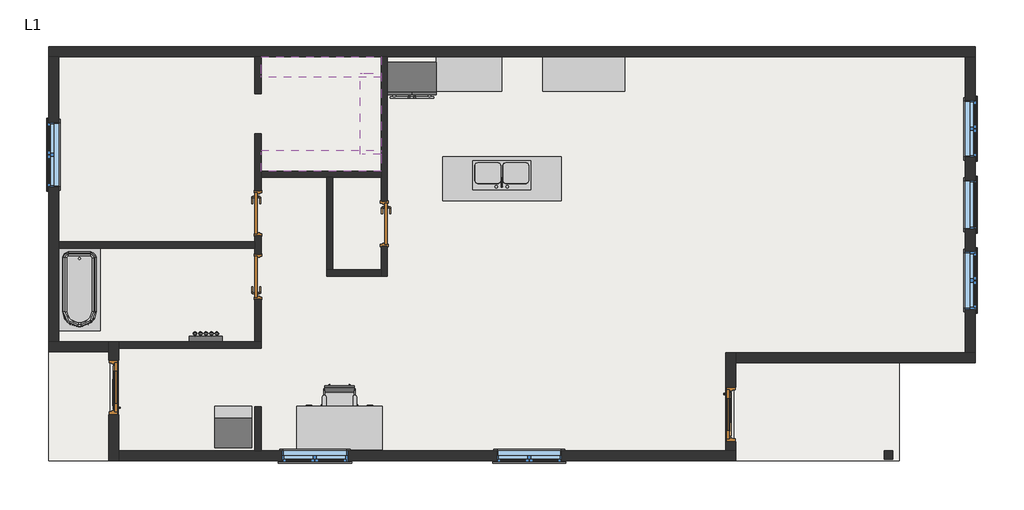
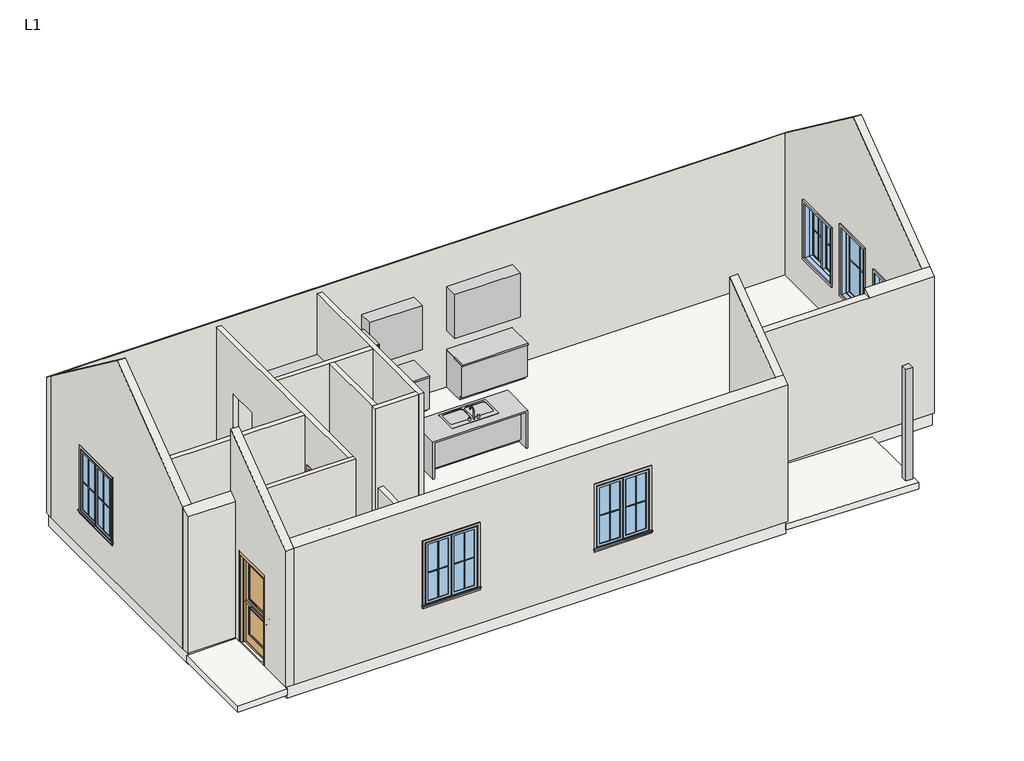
# One storey, incomplete: 28 proxies, 16 walls, 6 windows, 5 doors, 5 furniture elements, 3 slabs, 2 flow terminals, 1 column, 1 light fixture.
"""IFC4 building model written with IfcOpenShell, lengths in millimetres."""

from ifc_helpers import new_model, si_unit, frame, origin, origin_with_axes, place, context, project, spatial, polyline, outline, extrude, faceted_brep, transform, mapped, element, save
from components import proxy_39d06be3, proxy_0dac56ba, m_muntin_pattern_2x2_m_muntin_pattern_2x2_eb2ebf6d, m_muntin_pattern_2x2_m_muntin_pattern_2x2_a591b470, m_muntin_pattern_2x2_m_muntin_pattern_2x2_d4676b39, m_muntin_pattern_2x2_m_muntin_pattern_2x2_dce6eb8c, m_muntin_pattern_2x2_m_muntin_pattern_2x2_65db4d50, m_refrigerator_french_door_900mm_85fdf866, m_trim_window_exterior_flat_with_sill_96d7571b, m_trim_window_exterior_flat_with_sill_a970d7bf, m_trim_window_exterior_flat_with_sill_09d1e46a, m_trim_window_interior_flat_picture_frame_ac477dd0, m_trim_window_interior_flat_picture_frame_5bf35ee4, m_trim_window_interior_flat_picture_frame_313add5a, proxy_5ec56aa7, m_door_exterior_single_two_lite_900_x_2100mm_26a130b0, m_door_passage_single_flush_750_x_2100mm_117db9f4, m_door_passage_single_flush_750_x_2100mm_a396414b, m_sink_kitchen_double_1065_mmx535_mm_private_a90f4076, m_tub_rectangular_3d_m_tub_rectangular_3d_5c80b43e, furniture_692216f6, furniture_e14fe356, furniture_18aa629a, m_chair_task_arms_m_chair_task_arms_bb362225, m_desk_1525_x_762mm_34485ced, standard_89f9745c, m_window_casement_double_1050_x_1350mm_baccf237, m_window_casement_double_1200_x_1500mm_974e59ab, m_window_fixed_900_x_1650mm_c6421b1e

model = new_model("IFC4")

# Units and contexts
model_context = context("Model", 3, world=origin())
ifc_project = project(units=[si_unit("LENGTHUNIT", "METRE", prefix="MILLI")], contexts=[model_context])

# Site, building, storey
site = spatial("IfcSite", under=ifc_project)
building = spatial("IfcBuilding", under=site)
storey = spatial("IfcBuildingStorey", under=building, Name="L1", Elevation=0.0)

# Proxies
placement = place(None, origin())
proxy_shape = proxy_39d06be3(model_context)
element("IfcBuildingElementProxy", 1, Name="Closet Shelf and Pole : 15\" Deep", ObjectType="Closet Shelf and Pole : 15\" Deep", at=placement, inside=storey, context=model_context, shape_type="MappedRepresentation", body=[
    mapped(proxy_shape, transform((-2941.5777761, 3663.8910467, 0.0), x_axis=(1.0, 0.0, 0.0), y_axis=(0.0, 1.0, 0.0), z_axis=(0.0, 0.0, 1.0))),
])
element("IfcBuildingElementProxy", 2, Name="Closet Shelf and Pole : 15\" Deep", ObjectType="Closet Shelf and Pole : 15\" Deep", at=placement, inside=storey, context=model_context, shape_type="MappedRepresentation", body=[
    mapped(proxy_shape, transform((-741.5777761, 1563.8910467, 0.0), x_axis=(-1.0, 0.0, 0.0), y_axis=(0.0, -1.0, 0.0), z_axis=(0.0, 0.0, 1.0))),
])
proxy_2_shape = proxy_0dac56ba(model_context)
element("IfcBuildingElementProxy", 3, Name="Closet Shelf and Pole : 15\" Deep", ObjectType="Closet Shelf and Pole : 15\" Deep", at=placement, inside=storey, context=model_context, shape_type="MappedRepresentation", body=[
    mapped(proxy_2_shape, transform((-741.5777761, 3359.0910467, 0.0), x_axis=(0.0, -1.0, 0.0), y_axis=(1.0, 0.0, 0.0), z_axis=(0.0, 0.0, 1.0))),
])
m_muntin_pattern_2x2_m_muntin_pattern_2x2_shape = m_muntin_pattern_2x2_m_muntin_pattern_2x2_eb2ebf6d(model_context)
element("IfcBuildingElementProxy", 4, Name="M_Muntin Pattern_2x2 : M_Muntin Pattern_2x2", ObjectType="M_Muntin Pattern_2x2 : M_Muntin Pattern_2x2", at=placement, inside=storey, context=model_context, shape_type="MappedRepresentation", body=[
    mapped(m_muntin_pattern_2x2_m_muntin_pattern_2x2_shape, transform((10147.8972239, 2599.8035467, 969.85), x_axis=(0.0, -1.0, 0.0), y_axis=(1.0, 0.0, 0.0), z_axis=(0.0, 0.0, 1.0))),
])
element("IfcBuildingElementProxy", 5, Name="M_Muntin Pattern_2x2 : M_Muntin Pattern_2x2", ObjectType="M_Muntin Pattern_2x2 : M_Muntin Pattern_2x2", at=placement, inside=storey, context=model_context, shape_type="MappedRepresentation", body=[
    mapped(m_muntin_pattern_2x2_m_muntin_pattern_2x2_shape, transform((10147.8972239, -182.1964533, 969.85), x_axis=(0.0, -1.0, 0.0), y_axis=(1.0, 0.0, 0.0), z_axis=(0.0, 0.0, 1.0))),
])
m_muntin_pattern_2x2_m_muntin_pattern_2x2_2_shape = m_muntin_pattern_2x2_m_muntin_pattern_2x2_a591b470(model_context)
element("IfcBuildingElementProxy", 6, Name="M_Muntin Pattern_2x2 : M_Muntin Pattern_2x2", ObjectType="M_Muntin Pattern_2x2 : M_Muntin Pattern_2x2", at=placement, inside=storey, context=model_context, shape_type="MappedRepresentation", body=[
    mapped(m_muntin_pattern_2x2_m_muntin_pattern_2x2_2_shape, transform((10147.8972239, 2077.9785467, 969.85), x_axis=(0.0, 1.0, 0.0), y_axis=(-1.0, 0.0, 0.0), z_axis=(0.0, 0.0, 1.0))),
])
element("IfcBuildingElementProxy", 7, Name="M_Muntin Pattern_2x2 : M_Muntin Pattern_2x2", ObjectType="M_Muntin Pattern_2x2 : M_Muntin Pattern_2x2", at=placement, inside=storey, context=model_context, shape_type="MappedRepresentation", body=[
    mapped(m_muntin_pattern_2x2_m_muntin_pattern_2x2_2_shape, transform((10147.8972239, -704.0214533, 969.85), x_axis=(0.0, 1.0, 0.0), y_axis=(-1.0, 0.0, 0.0), z_axis=(0.0, 0.0, 1.0))),
])
m_muntin_pattern_2x2_m_muntin_pattern_2x2_3_shape = m_muntin_pattern_2x2_m_muntin_pattern_2x2_d4676b39(model_context)
element("IfcBuildingElementProxy", 8, Name="M_Muntin Pattern_2x2 : M_Muntin Pattern_2x2", ObjectType="M_Muntin Pattern_2x2 : M_Muntin Pattern_2x2", at=placement, inside=storey, context=model_context, shape_type="MappedRepresentation", body=[
    mapped(m_muntin_pattern_2x2_m_muntin_pattern_2x2_3_shape, transform((2273.3347239, -3742.5839533, 969.85), x_axis=(-1.0, 0.0, 0.0), y_axis=(0.0, -1.0, 0.0), z_axis=(0.0, 0.0, 1.0))),
])
element("IfcBuildingElementProxy", 9, Name="M_Muntin Pattern_2x2 : M_Muntin Pattern_2x2", ObjectType="M_Muntin Pattern_2x2 : M_Muntin Pattern_2x2", at=placement, inside=storey, context=model_context, shape_type="MappedRepresentation", body=[
    mapped(m_muntin_pattern_2x2_m_muntin_pattern_2x2_3_shape, transform((-1658.6652761, -3742.5839533, 969.85), x_axis=(-1.0, 0.0, 0.0), y_axis=(0.0, -1.0, 0.0), z_axis=(0.0, 0.0, 1.0))),
])
element("IfcBuildingElementProxy", 10, Name="M_Muntin Pattern_2x2 : M_Muntin Pattern_2x2", ObjectType="M_Muntin Pattern_2x2 : M_Muntin Pattern_2x2", at=placement, inside=storey, context=model_context, shape_type="MappedRepresentation", body=[
    mapped(m_muntin_pattern_2x2_m_muntin_pattern_2x2_3_shape, transform((-6830.0527761, 1565.4785467, 969.85), x_axis=(0.0, 1.0, 0.0), y_axis=(-1.0, 0.0, 0.0), z_axis=(0.0, 0.0, 1.0))),
])
m_muntin_pattern_2x2_m_muntin_pattern_2x2_4_shape = m_muntin_pattern_2x2_m_muntin_pattern_2x2_dce6eb8c(model_context)
element("IfcBuildingElementProxy", 11, Name="M_Muntin Pattern_2x2 : M_Muntin Pattern_2x2", ObjectType="M_Muntin Pattern_2x2 : M_Muntin Pattern_2x2", at=placement, inside=storey, context=model_context, shape_type="MappedRepresentation", body=[
    mapped(m_muntin_pattern_2x2_m_muntin_pattern_2x2_4_shape, transform((1676.5097239, -3742.5839533, 969.85), x_axis=(1.0, 0.0, 0.0), y_axis=(0.0, 1.0, 0.0), z_axis=(0.0, 0.0, 1.0))),
])
element("IfcBuildingElementProxy", 12, Name="M_Muntin Pattern_2x2 : M_Muntin Pattern_2x2", ObjectType="M_Muntin Pattern_2x2 : M_Muntin Pattern_2x2", at=placement, inside=storey, context=model_context, shape_type="MappedRepresentation", body=[
    mapped(m_muntin_pattern_2x2_m_muntin_pattern_2x2_4_shape, transform((-2255.4902761, -3742.5839533, 969.85), x_axis=(1.0, 0.0, 0.0), y_axis=(0.0, 1.0, 0.0), z_axis=(0.0, 0.0, 1.0))),
])
element("IfcBuildingElementProxy", 13, Name="M_Muntin Pattern_2x2 : M_Muntin Pattern_2x2", ObjectType="M_Muntin Pattern_2x2 : M_Muntin Pattern_2x2", at=placement, inside=storey, context=model_context, shape_type="MappedRepresentation", body=[
    mapped(m_muntin_pattern_2x2_m_muntin_pattern_2x2_4_shape, transform((-6830.0527761, 2162.3035467, 969.85), x_axis=(0.0, -1.0, 0.0), y_axis=(1.0, 0.0, 0.0), z_axis=(0.0, 0.0, 1.0))),
])
m_muntin_pattern_2x2_m_muntin_pattern_2x2_5_shape = m_muntin_pattern_2x2_m_muntin_pattern_2x2_65db4d50(model_context)
element("IfcBuildingElementProxy", 14, Name="M_Muntin Pattern_2x2 : M_Muntin Pattern_2x2", ObjectType="M_Muntin Pattern_2x2 : M_Muntin Pattern_2x2", at=placement, inside=storey, context=model_context, shape_type="MappedRepresentation", body=[
    mapped(m_muntin_pattern_2x2_m_muntin_pattern_2x2_5_shape, transform((10147.8972239, 947.8910467, 938.1), x_axis=(0.0, 1.0, 0.0), y_axis=(-1.0, 0.0, 0.0), z_axis=(0.0, 0.0, 1.0))),
])
m_refrigerator_french_door_900mm_shape = m_refrigerator_french_door_900mm_85fdf866(model_context)
element("IfcBuildingElementProxy", 15, Name="M_Refrigerator-French_Door : 900mm", ObjectType="M_Refrigerator-French_Door : 900mm", at=placement, inside=storey, context=model_context, shape_type="MappedRepresentation", body=[
    mapped(m_refrigerator_french_door_900mm_shape, transform((-177.5777761, 3663.8910467, 0.0), x_axis=(1.0, 0.0, 0.0), y_axis=(0.0, 1.0, 0.0), z_axis=(0.0, 0.0, 1.0))),
])
m_trim_window_exterior_flat_with_sill_shape = m_trim_window_exterior_flat_with_sill_96d7571b(model_context)
element("IfcBuildingElementProxy", 16, Name="M_Trim-Window-Exterior-Flat : with Sill", ObjectType="M_Trim-Window-Exterior-Flat : with Sill", at=placement, inside=storey, context=model_context, shape_type="MappedRepresentation", body=[
    mapped(m_trim_window_exterior_flat_with_sill_shape, transform((10157.4222239, 2338.8910467, 2250.0), x_axis=(0.0, 1.0, 0.0), y_axis=(0.0, 0.0, 1.0), z_axis=(1.0, 0.0, 0.0))),
])
element("IfcBuildingElementProxy", 17, Name="M_Trim-Window-Exterior-Flat : with Sill", ObjectType="M_Trim-Window-Exterior-Flat : with Sill", at=placement, inside=storey, context=model_context, shape_type="MappedRepresentation", body=[
    mapped(m_trim_window_exterior_flat_with_sill_shape, transform((10157.4222239, -443.1089533, 2250.0), x_axis=(0.0, 1.0, 0.0), y_axis=(0.0, 0.0, 1.0), z_axis=(1.0, 0.0, 0.0))),
])
m_trim_window_exterior_flat_with_sill_2_shape = m_trim_window_exterior_flat_with_sill_a970d7bf(model_context)
element("IfcBuildingElementProxy", 18, Name="M_Trim-Window-Exterior-Flat : with Sill", ObjectType="M_Trim-Window-Exterior-Flat : with Sill", at=placement, inside=storey, context=model_context, shape_type="MappedRepresentation", body=[
    mapped(m_trim_window_exterior_flat_with_sill_2_shape, transform((1974.9222239, -3752.1089533, 2400.0), x_axis=(1.0, 0.0, 0.0), y_axis=(0.0, 0.0, 1.0), z_axis=(0.0, -1.0, 0.0))),
])
element("IfcBuildingElementProxy", 19, Name="M_Trim-Window-Exterior-Flat : with Sill", ObjectType="M_Trim-Window-Exterior-Flat : with Sill", at=placement, inside=storey, context=model_context, shape_type="MappedRepresentation", body=[
    mapped(m_trim_window_exterior_flat_with_sill_2_shape, transform((-1957.0777761, -3752.1089533, 2400.0), x_axis=(1.0, 0.0, 0.0), y_axis=(0.0, 0.0, 1.0), z_axis=(0.0, -1.0, 0.0))),
])
element("IfcBuildingElementProxy", 20, Name="M_Trim-Window-Exterior-Flat : with Sill", ObjectType="M_Trim-Window-Exterior-Flat : with Sill", at=placement, inside=storey, context=model_context, shape_type="MappedRepresentation", body=[
    mapped(m_trim_window_exterior_flat_with_sill_2_shape, transform((-6839.5777761, 1863.8910467, 2400.0), x_axis=(0.0, -1.0, 0.0), y_axis=(0.0, 0.0, 1.0), z_axis=(-1.0, 0.0, 0.0))),
])
m_trim_window_exterior_flat_with_sill_3_shape = m_trim_window_exterior_flat_with_sill_09d1e46a(model_context)
element("IfcBuildingElementProxy", 21, Name="M_Trim-Window-Exterior-Flat : with Sill", ObjectType="M_Trim-Window-Exterior-Flat : with Sill", at=placement, inside=storey, context=model_context, shape_type="MappedRepresentation", body=[
    mapped(m_trim_window_exterior_flat_with_sill_3_shape, transform((10157.4222239, 947.8910467, 2550.0), x_axis=(0.0, 1.0, 0.0), y_axis=(0.0, 0.0, 1.0), z_axis=(1.0, 0.0, 0.0))),
])
m_trim_window_interior_flat_picture_frame_shape = m_trim_window_interior_flat_picture_frame_ac477dd0(model_context)
element("IfcBuildingElementProxy", 22, Name="M_Trim-Window-Interior-Flat : Picture Frame", ObjectType="M_Trim-Window-Interior-Flat : Picture Frame", at=placement, inside=storey, context=model_context, shape_type="MappedRepresentation", body=[
    mapped(m_trim_window_interior_flat_picture_frame_shape, transform((9973.4222239, 2338.8910467, 2250.0), x_axis=(0.0, -1.0, 0.0), y_axis=(0.0, 0.0, 1.0), z_axis=(-1.0, 0.0, 0.0))),
])
element("IfcBuildingElementProxy", 23, Name="M_Trim-Window-Interior-Flat : Picture Frame", ObjectType="M_Trim-Window-Interior-Flat : Picture Frame", at=placement, inside=storey, context=model_context, shape_type="MappedRepresentation", body=[
    mapped(m_trim_window_interior_flat_picture_frame_shape, transform((9973.4222239, -443.1089533, 2250.0), x_axis=(0.0, -1.0, 0.0), y_axis=(0.0, 0.0, 1.0), z_axis=(-1.0, 0.0, 0.0))),
])
m_trim_window_interior_flat_picture_frame_2_shape = m_trim_window_interior_flat_picture_frame_5bf35ee4(model_context)
element("IfcBuildingElementProxy", 24, Name="M_Trim-Window-Interior-Flat : Picture Frame", ObjectType="M_Trim-Window-Interior-Flat : Picture Frame", at=placement, inside=storey, context=model_context, shape_type="MappedRepresentation", body=[
    mapped(m_trim_window_interior_flat_picture_frame_2_shape, transform((1974.9222239, -3568.1089533, 2400.0), x_axis=(-1.0, 0.0, 0.0), y_axis=(0.0, 0.0, 1.0), z_axis=(0.0, 1.0, 0.0))),
])
element("IfcBuildingElementProxy", 25, Name="M_Trim-Window-Interior-Flat : Picture Frame", ObjectType="M_Trim-Window-Interior-Flat : Picture Frame", at=placement, inside=storey, context=model_context, shape_type="MappedRepresentation", body=[
    mapped(m_trim_window_interior_flat_picture_frame_2_shape, transform((-1957.0777761, -3568.1089533, 2400.0), x_axis=(-1.0, 0.0, 0.0), y_axis=(0.0, 0.0, 1.0), z_axis=(0.0, 1.0, 0.0))),
])
element("IfcBuildingElementProxy", 26, Name="M_Trim-Window-Interior-Flat : Picture Frame", ObjectType="M_Trim-Window-Interior-Flat : Picture Frame", at=placement, inside=storey, context=model_context, shape_type="MappedRepresentation", body=[
    mapped(m_trim_window_interior_flat_picture_frame_2_shape, transform((-6655.5777761, 1863.8910467, 2400.0), x_axis=(0.0, 1.0, 0.0), y_axis=(0.0, 0.0, 1.0), z_axis=(1.0, 0.0, 0.0))),
])
m_trim_window_interior_flat_picture_frame_3_shape = m_trim_window_interior_flat_picture_frame_313add5a(model_context)
element("IfcBuildingElementProxy", 27, Name="M_Trim-Window-Interior-Flat : Picture Frame", ObjectType="M_Trim-Window-Interior-Flat : Picture Frame", at=placement, inside=storey, context=model_context, shape_type="MappedRepresentation", body=[
    mapped(m_trim_window_interior_flat_picture_frame_3_shape, transform((9973.4222239, 947.8910467, 2550.0), x_axis=(0.0, -1.0, 0.0), y_axis=(0.0, 0.0, 1.0), z_axis=(-1.0, 0.0, 0.0))),
])
proxy_3_shape = proxy_5ec56aa7(model_context)
element("IfcBuildingElementProxy", 28, Name="Washer-Dryer-Stack : 27\" x 30\"", ObjectType="Washer-Dryer-Stack : 27\" x 30\"", at=placement, inside=storey, context=model_context, shape_type="MappedRepresentation", body=[
    mapped(proxy_3_shape, transform((-3454.1777761, -3127.1089533, 0.0), x_axis=(-1.0, 0.0, 0.0), y_axis=(0.0, -1.0, 0.0), z_axis=(0.0, 0.0, 1.0))),
])

# Column
element("IfcColumn", 29, ObjectType="M_Rectangular Column : 150 x 150mm", at=placement, inside=storey, context=model_context, shape_type="SweptSolid", body=[
    extrude(outline(polyline([(8639.4222239, -3568.1089533), (8639.4222239, -3718.1089533), (8489.4222239, -3718.1089533), (8489.4222239, -3568.1089533), (8639.4222239, -3568.1089533)])), origin_with_axes(), (0.0, 0.0, 1.0), 2700.0),
])

# Doors
m_door_exterior_single_two_lite_900_x_2100mm_shape = m_door_exterior_single_two_lite_900_x_2100mm_26a130b0(model_context)
element("IfcDoor", 30, ObjectType="M_Door-Exterior-Single-Two_Lite : 900 x 2100mm", at=placement, inside=storey, context=model_context, shape_type="MappedRepresentation", body=[
    mapped(m_door_exterior_single_two_lite_900_x_2100mm_shape, transform((-5655.4277761, -2402.1089533, 0.0), x_axis=(0.0, 1.0, 0.0), y_axis=(-1.0, 0.0, 0.0), z_axis=(0.0, 0.0, 1.0))),
])
element("IfcDoor", 31, ObjectType="M_Door-Exterior-Single-Two_Lite : 900 x 2100mm", at=placement, inside=storey, context=model_context, shape_type="MappedRepresentation", body=[
    mapped(m_door_exterior_single_two_lite_900_x_2100mm_shape, transform((5673.2722239, -2899.0589533, 0.0), x_axis=(0.0, -1.0, 0.0), y_axis=(1.0, 0.0, 0.0), z_axis=(0.0, 0.0, 1.0))),
])
m_door_passage_single_flush_750_x_2100mm_shape = m_door_passage_single_flush_750_x_2100mm_117db9f4(model_context)
element("IfcDoor", 32, ObjectType="M_Door-Passage-Single-Flush : 750 x 2100mm", at=placement, inside=storey, context=model_context, shape_type="MappedRepresentation", body=[
    mapped(m_door_passage_single_flush_750_x_2100mm_shape, transform((-2992.2277761, -375.1089533, 0.0), x_axis=(0.0, 1.0, 0.0), y_axis=(-1.0, 0.0, 0.0), z_axis=(0.0, 0.0, 1.0))),
])
element("IfcDoor", 33, ObjectType="M_Door-Passage-Single-Flush : 750 x 2100mm", at=placement, inside=storey, context=model_context, shape_type="MappedRepresentation", body=[
    mapped(m_door_passage_single_flush_750_x_2100mm_shape, transform((-690.9277761, 599.8910467, 0.0), x_axis=(0.0, -1.0, 0.0), y_axis=(1.0, 0.0, 0.0), z_axis=(0.0, 0.0, 1.0))),
])
m_door_passage_single_flush_750_x_2100mm_2_shape = m_door_passage_single_flush_750_x_2100mm_a396414b(model_context)
element("IfcDoor", 34, ObjectType="M_Door-Passage-Single-Flush : 750 x 2100mm", at=placement, inside=storey, context=model_context, shape_type="MappedRepresentation", body=[
    mapped(m_door_passage_single_flush_750_x_2100mm_2_shape, transform((-2992.2277761, 788.8910467, 0.0), x_axis=(0.0, -1.0, 0.0), y_axis=(1.0, 0.0, 0.0), z_axis=(0.0, 0.0, 1.0))),
])

# Flow terminals
m_sink_kitchen_double_1065_mmx535_mm_private_shape = m_sink_kitchen_double_1065_mmx535_mm_private_a90f4076(model_context)
element("IfcFlowTerminal", 35, ObjectType="M_Sink - Kitchen - Double : 1065 mmx535 mm - Private", at=placement, inside=storey, context=model_context, shape_type="MappedRepresentation", body=[
    mapped(m_sink_kitchen_double_1065_mmx535_mm_private_shape, transform((1472.4222239, 1221.1233328, 914.4), x_axis=(-1.0, 0.0, 0.0), y_axis=(0.0, -1.0, 0.0), z_axis=(0.0, 0.0, 1.0))),
])
m_tub_rectangular_3d_m_tub_rectangular_3d_shape = m_tub_rectangular_3d_m_tub_rectangular_3d_5c80b43e(model_context)
element("IfcFlowTerminal", 36, ObjectType="M_Tub-Rectangular-3D : M_Tub-Rectangular-3D", at=placement, inside=storey, context=model_context, shape_type="MappedRepresentation", body=[
    mapped(m_tub_rectangular_3d_m_tub_rectangular_3d_shape, transform((-6747.5777761, -953.711922, 0.0), x_axis=(0.0, -1.0, 0.0), y_axis=(1.0, 0.0, 0.0), z_axis=(0.0, 0.0, 1.0))),
])

# Furniture
furniture_shape = furniture_692216f6(model_context)
element("IfcFurniture", 37, ObjectType="Casework Schematic - Base and Upper : Casework Schematic", at=placement, inside=storey, context=model_context, shape_type="MappedRepresentation", body=[
    mapped(furniture_shape, transform((272.4222239, 3665.7233328, 0.0), x_axis=(1.0, 0.0, 0.0), y_axis=(0.0, 1.0, 0.0), z_axis=(0.0, 0.0, 1.0))),
])
furniture_2_shape = furniture_e14fe356(model_context)
element("IfcFurniture", 38, ObjectType="Casework Schematic - Base and Upper : Casework Schematic", at=placement, inside=storey, context=model_context, shape_type="MappedRepresentation", body=[
    mapped(furniture_2_shape, transform((2222.4222239, 3663.8910467, 0.0), x_axis=(1.0, 0.0, 0.0), y_axis=(0.0, 1.0, 0.0), z_axis=(0.0, 0.0, 1.0))),
])
furniture_3_shape = furniture_18aa629a(model_context)
element("IfcFurniture", 39, ObjectType="Casework Schematic - Base and Upper : Casework Schematic", at=placement, inside=storey, context=model_context, shape_type="MappedRepresentation", body=[
    mapped(furniture_3_shape, transform((422.4222239, 1830.7233328, 0.0), x_axis=(1.0, 0.0, 0.0), y_axis=(0.0, 1.0, 0.0), z_axis=(0.0, 0.0, 1.0))),
])
m_chair_task_arms_m_chair_task_arms_shape = m_chair_task_arms_m_chair_task_arms_bb362225(model_context)
element("IfcFurniture", 40, ObjectType="M_Chair-Task (Arms) : M_Chair-Task (Arms)", at=placement, inside=storey, context=model_context, shape_type="MappedRepresentation", body=[
    mapped(m_chair_task_arms_m_chair_task_arms_shape, transform((-1363.0869564, -2622.5774075, 0.0), x_axis=(-1.0, 0.0, 0.0), y_axis=(0.0, -1.0, 0.0), z_axis=(0.0, 0.0, 1.0))),
])
m_desk_1525_x_762mm_shape = m_desk_1525_x_762mm_34485ced(model_context)
element("IfcFurniture", 41, ObjectType="M_Desk : 1525 x 762mm", at=placement, inside=storey, context=model_context, shape_type="MappedRepresentation", body=[
    mapped(m_desk_1525_x_762mm_shape, transform((-742.0777761, -2766.1089533, 0.0), x_axis=(-1.0, 0.0, 0.0), y_axis=(0.0, -1.0, 0.0), z_axis=(0.0, 0.0, 1.0))),
])

# Light fixture
standard_shape = standard_89f9745c(model_context)
element("IfcLightFixture", 42, ObjectType="M_Sconce Lamp - Cosmetic - LED : Standard", at=placement, inside=storey, context=model_context, shape_type="MappedRepresentation", body=[
    mapped(standard_shape, transform((-3955.5777761, -1568.1089533, 1200.0), x_axis=(-1.0, 0.0, 0.0), y_axis=(0.0, 0.0, 1.0), z_axis=(0.0, 1.0, 0.0))),
])

# Slabs
element("IfcSlab", 43, ObjectType="Concrete 150mm", at=placement, inside=storey, context=model_context, shape_type="SweptSolid", body=[
    extrude(outline(polyline([(-200.0329047, 5727.4222239), (-263.5337774, 8758.9222239), (-113.5008727, 8758.9222239), (-50.0, 5727.4222239), (-200.0329047, 5727.4222239)])), frame((0.0, -3752.1089533, 0.0), z_axis=(0.0, 1.0, 0.0), x_axis=(0.0, 0.0, 1.0)), (0.0, 0.0, 1.0), 1831.5),
])
element("IfcSlab", 44, ObjectType="Concrete 150mm", at=placement, inside=storey, context=model_context, shape_type="SweptSolid", body=[
    extrude(outline(polyline([(-223.7030304, -6839.5777761), (-200.0329047, -5709.5777761), (-50.0, -5709.5777761), (-73.6701257, -6839.5777761), (-223.7030304, -6839.5777761)])), frame((0.0, -3752.1089533, 0.0), z_axis=(0.0, 1.0, 0.0), x_axis=(0.0, 0.0, 1.0)), (0.0, 0.0, 1.0), 2031.5),
])
element("IfcSlab", 45, ObjectType="Generic 300mm", at=placement, inside=storey, context=model_context, shape_type="SweptSolid", body=[
    extrude(outline(polyline([(-6808.0777761, 3816.3910467), (10125.9222239, 3816.3910467), (10125.9222239, -1920.6089533), (5727.4222239, -1920.6089533), (5727.4222239, -3720.6089533), (-5709.5777761, -3720.6089533), (-5709.5777761, -1720.6089533), (-6808.0777761, -1720.6089533), (-6808.0777761, 3816.3910467)])), frame((0.0, 0.0, -300.0), z_axis=(0.0, 0.0, 1.0), x_axis=(1.0, 0.0, 0.0)), (0.0, 0.0, 1.0), 300.0),
])

# Walls
element("IfcWall", 46, ObjectType="Interior - 114mm Partition", at=placement, inside=storey, context=model_context, shape_type="Brep", body=[
    faceted_brep([(-5557.0777761, -1682.1089533, 0.0), (-2941.5777761, -1682.1089533, 0.0), (-2941.5777761, -1682.1089533, 3300.0), (-5557.0777761, -1682.1089533, 3300.0), (-5557.0777761, -1568.1089533, 0.0), (-5557.0777761, -1568.1089533, 3300.0), (-3055.5777761, -1568.1089533, 3300.0), (-2941.5777761, -1568.1089533, 3300.0), (-2941.5777761, -1568.1089533, 0.0), (-3055.5777761, -1568.1089533, 0.0)], [[[0, 1, 2, 3]], [[4, 5, 6, 7, 8, 9]], [[1, 0, 4, 9, 8]], [[3, 2, 7, 6, 5]], [[0, 3, 5, 4]], [[2, 1, 8, 7]]]),
])
element("IfcWall", 47, ObjectType="Interior - 114mm Partition", at=placement, inside=storey, context=model_context, shape_type="Brep", body=[
    faceted_brep([(-2941.5777761, 3663.8910467, 3300.0), (-2941.5777761, 1563.8910467, 3300.0), (-2941.5777761, 1449.8910467, 3300.0), (-2941.5777761, -1568.1089533, 3300.0), (-2941.5777761, -1568.1089533, 0.0), (-2941.5777761, -780.1089533, 0.0), (-2941.5777761, -780.1089533, 2130.0), (-2941.5777761, 29.8910467, 2130.0), (-2941.5777761, 29.8910467, 0.0), (-2941.5777761, 383.8910467, 0.0), (-2941.5777761, 383.8910467, 2130.0), (-2941.5777761, 1193.8910467, 2130.0), (-2941.5777761, 1193.8910467, 0.0), (-2941.5777761, 1449.8910467, 0.0), (-2941.5777761, 1563.8910467, 0.0), (-2941.5777761, 2245.2437811, 0.0), (-2941.5777761, 2245.2437811, 2093.6148438), (-2941.5777761, 2982.5383123, 2093.6148438), (-2941.5777761, 2982.5383123, 0.0), (-2941.5777761, 3663.8910467, 0.0), (-3055.5777761, -1568.1089533, 3300.0), (-3055.5777761, 149.8910467, 3300.0), (-3055.5777761, 263.8910467, 3300.0), (-3055.5777761, 3663.8910467, 3300.0), (-3055.5777761, 3663.8910467, 0.0), (-3055.5777761, 2982.5383123, 0.0), (-3055.5777761, 2982.5383123, 2093.6148438), (-3055.5777761, 2245.2437811, 2093.6148438), (-3055.5777761, 2245.2437811, 0.0), (-3055.5777761, 1193.8910467, 0.0), (-3055.5777761, 1193.8910467, 2130.0), (-3055.5777761, 383.8910467, 2130.0), (-3055.5777761, 383.8910467, 0.0), (-3055.5777761, 263.8910467, 0.0), (-3055.5777761, 149.8910467, 0.0), (-3055.5777761, 29.8910467, 0.0), (-3055.5777761, 29.8910467, 2130.0), (-3055.5777761, -780.1089533, 2130.0), (-3055.5777761, -780.1089533, 0.0), (-3055.5777761, -1568.1089533, 0.0)], [[[0, 1, 2, 3, 4, 5, 6, 7, 8, 9, 10, 11, 12, 13, 14, 15, 16, 17, 18, 19]], [[20, 21, 22, 23, 24, 25, 26, 27, 28, 29, 30, 31, 32, 33, 34, 35, 36, 37, 38, 39]], [[4, 39, 38, 5]], [[24, 19, 18, 25]], [[8, 35, 34, 33, 32, 9]], [[12, 29, 28, 15, 14, 13]], [[3, 2, 1, 0, 23, 22, 21, 20]], [[4, 3, 20, 39]], [[0, 19, 24, 23]], [[7, 36, 35, 8]], [[36, 7, 6, 37]], [[37, 6, 5, 38]], [[31, 10, 9, 32]], [[10, 31, 30, 11]], [[11, 30, 29, 12]], [[27, 16, 15, 28]], [[16, 27, 26, 17]], [[17, 26, 25, 18]]]),
])
element("IfcWall", 48, ObjectType="Interior - 114mm Partition", at=placement, inside=storey, context=model_context, shape_type="SweptSolid", body=[
    extrude(outline(polyline([(-3055.5777761, 149.8910467), (-6655.5777761, 149.8910467), (-6655.5777761, 263.8910467), (-3055.5777761, 263.8910467), (-3055.5777761, 149.8910467)])), origin_with_axes(), (0.0, 0.0, 1.0), 3300.0),
])
element("IfcWall", 49, ObjectType="Interior - 114mm Partition", at=placement, inside=storey, context=model_context, shape_type="Brep", body=[
    faceted_brep([(-741.5777761, -364.1089533, 3300.0), (-741.5777761, -250.1089533, 3300.0), (-741.5777761, 1449.8910467, 3300.0), (-741.5777761, 1563.8910467, 3300.0), (-741.5777761, 3663.8910467, 3300.0), (-741.5777761, 3663.8910467, 0.0), (-741.5777761, 1563.8910467, 0.0), (-741.5777761, 1449.8910467, 0.0), (-741.5777761, 1004.8910467, 0.0), (-741.5777761, 1004.8910467, 2130.0), (-741.5777761, 194.8910467, 2130.0), (-741.5777761, 194.8910467, 0.0), (-741.5777761, -250.1089533, 0.0), (-741.5777761, -364.1089533, 0.0), (-627.5777761, 3663.8910467, 3300.0), (-627.5777761, -364.1089533, 3300.0), (-627.5777761, -364.1089533, 0.0), (-627.5777761, 194.8910467, 0.0), (-627.5777761, 194.8910467, 2130.0), (-627.5777761, 1004.8910467, 2130.0), (-627.5777761, 1004.8910467, 0.0), (-627.5777761, 3663.8910467, 0.0)], [[[0, 1, 2, 3, 4, 5, 6, 7, 8, 9, 10, 11, 12, 13]], [[14, 15, 16, 17, 18, 19, 20, 21]], [[5, 21, 20, 8, 7, 6]], [[16, 13, 12, 11, 17]], [[4, 3, 2, 1, 0, 15, 14]], [[5, 4, 14, 21]], [[0, 13, 16, 15]], [[10, 18, 17, 11]], [[18, 10, 9, 19]], [[19, 9, 8, 20]]]),
])
element("IfcWall", 50, ObjectType="Interior - 114mm Partition", at=placement, inside=storey, context=model_context, shape_type="Brep", body=[
    faceted_brep([(-741.5777761, -250.1089533, 0.0), (-1627.5777761, -250.1089533, 0.0), (-1741.5777761, -250.1089533, 0.0), (-1741.5777761, -250.1089533, 3300.0), (-1627.5777761, -250.1089533, 3300.0), (-741.5777761, -250.1089533, 3300.0), (-741.5777761, -364.1089533, 0.0), (-741.5777761, -364.1089533, 3300.0), (-1741.5777761, -364.1089533, 3300.0), (-1741.5777761, -364.1089533, 0.0)], [[[0, 1, 2, 3, 4, 5]], [[6, 7, 8, 9]], [[2, 1, 0, 6, 9]], [[5, 4, 3, 8, 7]], [[0, 5, 7, 6]], [[3, 2, 9, 8]]]),
])
element("IfcWall", 51, ObjectType="Interior - 114mm Partition", at=placement, inside=storey, context=model_context, shape_type="SweptSolid", body=[
    extrude(outline(polyline([(-1627.5777761, 1449.8910467), (-1627.5777761, -250.1089533), (-1741.5777761, -250.1089533), (-1741.5777761, 1449.8910467), (-1627.5777761, 1449.8910467)])), origin_with_axes(), (0.0, 0.0, 1.0), 3300.0),
])
element("IfcWall", 52, ObjectType="Interior - 114mm Partition", at=placement, inside=storey, context=model_context, shape_type="Brep", body=[
    faceted_brep([(-2941.5777761, 1449.8910467, 0.0), (-1741.5777761, 1449.8910467, 0.0), (-1627.5777761, 1449.8910467, 0.0), (-741.5777761, 1449.8910467, 0.0), (-741.5777761, 1449.8910467, 3300.0), (-1627.5777761, 1449.8910467, 3300.0), (-1741.5777761, 1449.8910467, 3300.0), (-2941.5777761, 1449.8910467, 3300.0), (-2941.5777761, 1563.8910467, 0.0), (-2941.5777761, 1563.8910467, 3300.0), (-741.5777761, 1563.8910467, 3300.0), (-741.5777761, 1563.8910467, 0.0)], [[[0, 1, 2, 3, 4, 5, 6, 7]], [[8, 9, 10, 11]], [[3, 2, 1, 0, 8, 11]], [[7, 6, 5, 4, 10, 9]], [[0, 7, 9, 8]], [[4, 3, 11, 10]]]),
])
element("IfcWall", 53, ObjectType="Interior - 114mm Partition", at=placement, inside=storey, context=model_context, shape_type="SweptSolid", body=[
    extrude(outline(polyline([(-2943.0777761, -2760.1089533), (-2943.0777761, -3568.1089533), (-3057.0777761, -3568.1089533), (-3057.0777761, -2760.1089533), (-2943.0777761, -2760.1089533)])), origin_with_axes(), (0.0, 0.0, 1.0), 3300.0),
])
element("IfcWall", 54, ObjectType="M_Exterior - Wood Siding on Wood Stud", at=placement, inside=storey, context=model_context, shape_type="Brep", body=[
    faceted_brep([(-6839.5777761, 3663.8910467, 0.0), (-6655.5777761, 3663.8910467, 0.0), (-3055.5777761, 3663.8910467, 0.0), (-2941.5777761, 3663.8910467, 0.0), (-741.5777761, 3663.8910467, 0.0), (-627.5777761, 3663.8910467, 0.0), (9973.4222239, 3663.8910467, 0.0), (10157.4222239, 3663.8910467, 0.0), (10157.4222239, 3663.8910467, 3438.0), (9973.4222239, 3663.8910467, 3438.0), (8673.4222239, 3663.8910467, 3438.0), (8489.4222239, 3663.8910467, 3438.0), (-5557.0777761, 3663.8910467, 3438.0), (-5741.0777761, 3663.8910467, 3438.0), (-6655.5777761, 3663.8910467, 3438.0), (-6839.5777761, 3663.8910467, 3438.0), (-6839.5777761, 3847.8910467, 0.0), (-6839.5777761, 3847.8910467, 3300.0), (-5741.0777761, 3847.8910467, 3300.0), (8673.4222239, 3847.8910467, 3300.0), (10157.4222239, 3847.8910467, 3300.0), (10157.4222239, 3847.8910467, 0.0)], [[[0, 1, 2, 3, 4, 5, 6, 7, 8, 9, 10, 11, 12, 13, 14, 15]], [[16, 17, 18, 19, 20, 21]], [[7, 6, 5, 4, 3, 2, 1, 0, 16, 21]], [[0, 15, 17, 16]], [[8, 7, 21, 20]], [[8, 20, 19, 10, 9]], [[13, 12, 11, 10, 19, 18]], [[13, 18, 17, 15, 14]]]),
])
element("IfcWall", 55, ObjectType="M_Exterior - Wood Siding on Wood Stud", at=placement, inside=storey, context=model_context, shape_type="Brep", body=[
    faceted_brep([(-5557.0777761, -3752.1089533, 3300.0), (-5557.0777761, -3752.1089533, 0.0), (-5557.0777761, -3568.1089533, 0.0), (-5557.0777761, -2902.1089533, 0.0), (-5557.0777761, -2902.1089533, 2200.0), (-5557.0777761, -1902.1089533, 2200.0), (-5557.0777761, -1902.1089533, 0.0), (-5557.0777761, -1682.1089533, 0.0), (-5557.0777761, -1568.1089533, 0.0), (-5557.0777761, -1568.1089533, 3300.0), (-5557.0777761, -1568.1089533, 4938.0), (-5557.0777761, -3568.1089533, 3438.0), (-5741.0777761, -3752.1089533, 0.0), (-5741.0777761, -3752.1089533, 3300.0), (-5741.0777761, -1568.1089533, 4938.0), (-5741.0777761, -1568.1089533, 3438.0), (-5741.0777761, -1568.1089533, 3300.0), (-5741.0777761, -1568.1089533, 0.0), (-5741.0777761, -1752.1089533, 0.0), (-5741.0777761, -1902.1089533, 0.0), (-5741.0777761, -1902.1089533, 2200.0), (-5741.0777761, -2902.1089533, 2200.0), (-5741.0777761, -2902.1089533, 0.0)], [[[0, 1, 2, 3, 4, 5, 6, 7, 8, 9, 10, 11]], [[12, 13, 14, 15, 16, 17, 18, 19, 20, 21, 22]], [[1, 12, 22, 3, 2]], [[17, 8, 7, 6, 19, 18]], [[1, 0, 13, 12]], [[5, 20, 19, 6]], [[20, 5, 4, 21]], [[21, 4, 3, 22]], [[0, 11, 10, 14, 13]], [[8, 17, 16, 15, 14, 10, 9]]]),
])
element("IfcWall", 56, ObjectType="M_Exterior - Wood Siding on Wood Stud", at=placement, inside=storey, context=model_context, shape_type="Brep", body=[
    faceted_brep([(5758.9222239, -3568.1089533, 3438.0), (5758.9222239, -3568.1089533, 2700.0), (5758.9222239, -3568.1089533, 0.0), (5574.9222239, -3568.1089533, 0.0), (-2943.0777761, -3568.1089533, 0.0), (-3057.0777761, -3568.1089533, 0.0), (-5557.0777761, -3568.1089533, 0.0), (-5557.0777761, -3568.1089533, 3438.0), (5574.9222239, -3568.1089533, 3438.0), (1374.9222239, -3568.1089533, 2400.0), (1374.9222239, -3568.1089533, 900.0), (2574.9222239, -3568.1089533, 900.0), (2574.9222239, -3568.1089533, 2400.0), (-2557.0777761, -3568.1089533, 2400.0), (-2557.0777761, -3568.1089533, 900.0), (-1357.0777761, -3568.1089533, 900.0), (-1357.0777761, -3568.1089533, 2400.0), (5758.9222239, -3752.1089533, 0.0), (5758.9222239, -3752.1089533, 2700.0), (5758.9222239, -3752.1089533, 3300.0), (-5557.0777761, -3752.1089533, 3300.0), (-5557.0777761, -3752.1089533, 0.0), (1374.9222239, -3752.1089533, 2400.0), (2574.9222239, -3752.1089533, 2400.0), (2574.9222239, -3752.1089533, 900.0), (1374.9222239, -3752.1089533, 900.0), (-2557.0777761, -3752.1089533, 2400.0), (-1357.0777761, -3752.1089533, 2400.0), (-1357.0777761, -3752.1089533, 900.0), (-2557.0777761, -3752.1089533, 900.0)], [[[0, 1, 2, 3, 4, 5, 6, 7, 8], [9, 10, 11, 12], [13, 14, 15, 16]], [[17, 18, 19, 20, 21], [22, 23, 24, 25], [26, 27, 28, 29]], [[6, 5, 4, 3, 2, 17, 21]], [[7, 6, 21, 20]], [[10, 9, 22, 25]], [[11, 10, 25, 24]], [[12, 11, 24, 23]], [[9, 12, 23, 22]], [[14, 13, 26, 29]], [[15, 14, 29, 28]], [[16, 15, 28, 27]], [[13, 16, 27, 26]], [[0, 8, 7, 20, 19]], [[0, 19, 18, 17, 2, 1]]]),
])
element("IfcWall", 57, ObjectType="M_Exterior - Wood Siding on Wood Stud", at=placement, inside=storey, context=model_context, shape_type="Brep", body=[
    faceted_brep([(5574.9222239, -1768.1089533, 4788.0), (5574.9222239, -1768.1089533, 0.0), (5574.9222239, -2399.0589533, 0.0), (5574.9222239, -2399.0589533, 2200.0), (5574.9222239, -3399.0589533, 2200.0), (5574.9222239, -3399.0589533, 0.0), (5574.9222239, -3568.1089533, 0.0), (5574.9222239, -3568.1089533, 3438.0), (5758.9222239, -1768.1089533, 0.0), (5758.9222239, -1768.1089533, 3300.0), (5758.9222239, -1768.1089533, 4788.0), (5758.9222239, -3568.1089533, 3438.0), (5758.9222239, -3568.1089533, 0.0), (5758.9222239, -3399.0589533, 0.0), (5758.9222239, -3399.0589533, 2200.0), (5758.9222239, -2399.0589533, 2200.0), (5758.9222239, -2399.0589533, 0.0), (5758.9222239, -1952.1089533, 0.0)], [[[0, 1, 2, 3, 4, 5, 6, 7]], [[8, 9, 10, 11, 12, 13, 14, 15, 16, 17]], [[12, 6, 5, 13]], [[1, 8, 17, 16, 2]], [[1, 0, 10, 9, 8]], [[4, 14, 13, 5]], [[14, 4, 3, 15]], [[15, 3, 2, 16]], [[0, 7, 11, 10]], [[6, 12, 11, 7]]]),
])
element("IfcWall", 58, ObjectType="M_Exterior - Wood Siding on Wood Stud", at=placement, inside=storey, context=model_context, shape_type="Brep", body=[
    faceted_brep([(-5741.0777761, -1568.1089533, 3438.0), (-5741.0777761, -1568.1089533, 0.0), (-6655.5777761, -1568.1089533, 0.0), (-6839.5777761, -1568.1089533, 0.0), (-6839.5777761, -1568.1089533, 3438.0), (-6655.5777761, -1568.1089533, 3438.0), (-5741.0777761, -1752.1089533, 0.0), (-5741.0777761, -1752.1089533, 3300.0), (-6839.5777761, -1752.1089533, 3300.0), (-6839.5777761, -1752.1089533, 0.0)], [[[0, 1, 2, 3, 4, 5]], [[6, 7, 8, 9]], [[3, 2, 1, 6, 9]], [[4, 3, 9, 8]], [[0, 7, 6, 1]], [[0, 5, 4, 8, 7]]]),
])
element("IfcWall", 59, ObjectType="M_Exterior - Wood Siding on Wood Stud", at=placement, inside=storey, context=model_context, shape_type="Brep", body=[
    faceted_brep([(-6655.5777761, -1568.1089533, 0.0), (-6655.5777761, 149.8910467, 0.0), (-6655.5777761, 263.8910467, 0.0), (-6655.5777761, 3663.8910467, 0.0), (-6655.5777761, 3663.8910467, 3438.0), (-6655.5777761, 1047.8910467, 5400.0), (-6655.5777761, -1568.1089533, 3438.0), (-6655.5777761, 2463.8910467, 2400.0), (-6655.5777761, 2463.8910467, 900.0), (-6655.5777761, 1263.8910467, 900.0), (-6655.5777761, 1263.8910467, 2400.0), (-6839.5777761, -1568.1089533, 0.0), (-6839.5777761, -1568.1089533, 3438.0), (-6839.5777761, 1047.8910467, 5400.0), (-6839.5777761, 3663.8910467, 3438.0), (-6839.5777761, 3663.8910467, 0.0), (-6839.5777761, 2463.8910467, 2400.0), (-6839.5777761, 1263.8910467, 2400.0), (-6839.5777761, 1263.8910467, 900.0), (-6839.5777761, 2463.8910467, 900.0)], [[[0, 1, 2, 3, 4, 5, 6], [7, 8, 9, 10]], [[11, 12, 13, 14, 15], [16, 17, 18, 19]], [[3, 2, 1, 0, 11, 15]], [[0, 6, 12, 11]], [[4, 3, 15, 14]], [[8, 7, 16, 19]], [[9, 8, 19, 18]], [[10, 9, 18, 17]], [[7, 10, 17, 16]], [[6, 5, 13, 12]], [[5, 4, 14, 13]]]),
])
element("IfcWall", 60, ObjectType="M_Exterior - Wood Siding on Wood Stud", at=placement, inside=storey, context=model_context, shape_type="Brep", body=[
    faceted_brep([(5758.9222239, -1952.1089533, 0.0), (10157.4222239, -1952.1089533, 0.0), (10157.4222239, -1952.1089533, 3300.0), (8673.4222239, -1952.1089533, 3300.0), (8489.4222239, -1952.1089533, 3300.0), (5758.9222239, -1952.1089533, 3300.0), (5758.9222239, -1768.1089533, 0.0), (5758.9222239, -1768.1089533, 3300.0), (8489.4222239, -1768.1089533, 3300.0), (8673.4222239, -1768.1089533, 3300.0), (8673.4222239, -1768.1089533, 3438.0), (9973.4222239, -1768.1089533, 3438.0), (10157.4222239, -1768.1089533, 3438.0), (10157.4222239, -1768.1089533, 0.0), (9973.4222239, -1768.1089533, 0.0)], [[[0, 1, 2, 3, 4, 5]], [[6, 7, 8, 9, 10, 11, 12, 13, 14]], [[1, 0, 6, 14, 13]], [[2, 1, 13, 12]], [[0, 5, 7, 6]], [[5, 4, 3, 9, 8, 7]], [[9, 3, 10]], [[3, 2, 12, 11, 10]]]),
])
element("IfcWall", 61, ObjectType="M_Exterior - Wood Siding on Wood Stud", at=placement, inside=storey, context=model_context, shape_type="SweptSolid", body=[
    extrude(outline(polyline([(-1768.1089533, 0.0), (-1768.1089533, 3438.0), (947.8910467, 5475.0), (3663.8910467, 3438.0), (3663.8910467, 0.0), (-1768.1089533, 0.0)]), holes=[polyline([(1813.8910467, 2250.0), (1813.8910467, 900.0), (2863.8910467, 900.0), (2863.8910467, 2250.0), (1813.8910467, 2250.0)]), polyline([(-968.1089533, 2250.0), (-968.1089533, 900.0), (81.8910467, 900.0), (81.8910467, 2250.0), (-968.1089533, 2250.0)]), polyline([(497.8910467, 2550.0), (497.8910467, 900.0), (1397.8910467, 900.0), (1397.8910467, 2550.0), (497.8910467, 2550.0)])]), frame((9973.4222239, 0.0, 0.0), z_axis=(1.0, 0.0, 0.0), x_axis=(0.0, 1.0, 0.0)), (0.0, 0.0, 1.0), 184.0),
])

# Windows
m_window_casement_double_1050_x_1350mm_shape = m_window_casement_double_1050_x_1350mm_baccf237(model_context)
element("IfcWindow", 62, ObjectType="M_Window-Casement-Double : 1050 x 1350mm", at=placement, inside=storey, context=model_context, shape_type="MappedRepresentation", body=[
    mapped(m_window_casement_double_1050_x_1350mm_shape, transform((10065.4222239, 2338.8910467, 0.0), x_axis=(0.0, -1.0, 0.0), y_axis=(1.0, 0.0, 0.0), z_axis=(0.0, 0.0, 1.0))),
])
element("IfcWindow", 63, ObjectType="M_Window-Casement-Double : 1050 x 1350mm", at=placement, inside=storey, context=model_context, shape_type="MappedRepresentation", body=[
    mapped(m_window_casement_double_1050_x_1350mm_shape, transform((10065.4222239, -443.1089533, 0.0), x_axis=(0.0, -1.0, 0.0), y_axis=(1.0, 0.0, 0.0), z_axis=(0.0, 0.0, 1.0))),
])
m_window_casement_double_1200_x_1500mm_shape = m_window_casement_double_1200_x_1500mm_974e59ab(model_context)
element("IfcWindow", 64, ObjectType="M_Window-Casement-Double : 1200 x 1500mm", at=placement, inside=storey, context=model_context, shape_type="MappedRepresentation", body=[
    mapped(m_window_casement_double_1200_x_1500mm_shape, transform((1974.9222239, -3660.1089533, 0.0), x_axis=(-1.0, 0.0, 0.0), y_axis=(0.0, -1.0, 0.0), z_axis=(0.0, 0.0, 1.0))),
])
element("IfcWindow", 65, ObjectType="M_Window-Casement-Double : 1200 x 1500mm", at=placement, inside=storey, context=model_context, shape_type="MappedRepresentation", body=[
    mapped(m_window_casement_double_1200_x_1500mm_shape, transform((-1957.0777761, -3660.1089533, 0.0), x_axis=(-1.0, 0.0, 0.0), y_axis=(0.0, -1.0, 0.0), z_axis=(0.0, 0.0, 1.0))),
])
element("IfcWindow", 66, ObjectType="M_Window-Casement-Double : 1200 x 1500mm", at=placement, inside=storey, context=model_context, shape_type="MappedRepresentation", body=[
    mapped(m_window_casement_double_1200_x_1500mm_shape, transform((-6747.5777761, 1863.8910467, 0.0), x_axis=(0.0, 1.0, 0.0), y_axis=(-1.0, 0.0, 0.0), z_axis=(0.0, 0.0, 1.0))),
])
m_window_fixed_900_x_1650mm_shape = m_window_fixed_900_x_1650mm_c6421b1e(model_context)
element("IfcWindow", 67, ObjectType="M_Window-Fixed : 900 x 1650mm", at=placement, inside=storey, context=model_context, shape_type="MappedRepresentation", body=[
    mapped(m_window_fixed_900_x_1650mm_shape, transform((10065.4222239, 947.8910467, 0.0), x_axis=(0.0, -1.0, 0.0), y_axis=(1.0, 0.0, 0.0), z_axis=(0.0, 0.0, 1.0))),
])

save(model, "model.ifc")
